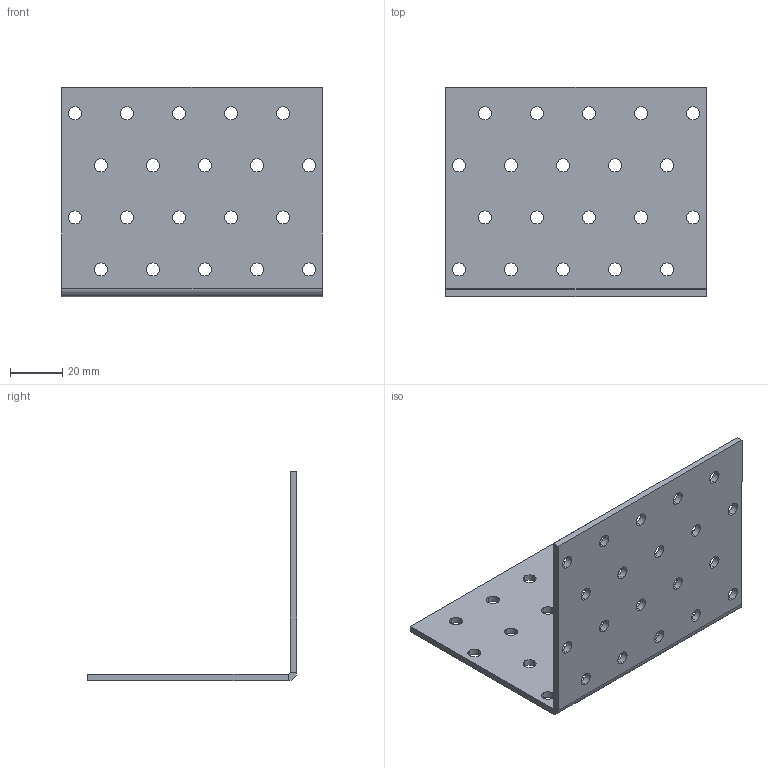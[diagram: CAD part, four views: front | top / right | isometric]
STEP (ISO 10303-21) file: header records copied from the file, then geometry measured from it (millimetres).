
FILE_DESCRIPTION (( 'STEP AP203' ), '1' );
FILE_NAME ('10509.STEP', '2020-04-20T11:01:38', ( '' ), ( '' ), 'SwSTEP 2.0', 'SolidWorks 2013', '' );
FILE_SCHEMA (( 'CONFIG_CONTROL_DESIGN' ));
Length unit declared in the file: millimetre
Products named in the file (1): 10509
Bounding box: 100 x 80.46 x 80.46 mm (x, y, z)
Volume: 37429.2 mm3; surface area: 32802 mm2
Topology: 1 solids, 1 shells, 94 faces, 268 edges, 176 vertices
Faces by surface type: cylinder 82, plane 12
Entity records: 3389 total; most frequent: DIRECTION 622, CARTESIAN_POINT 539, ORIENTED_EDGE 536, EDGE_CURVE 268, AXIS2_PLACEMENT_3D 259, VERTEX_POINT 176, EDGE_LOOP 174, CIRCLE 164
